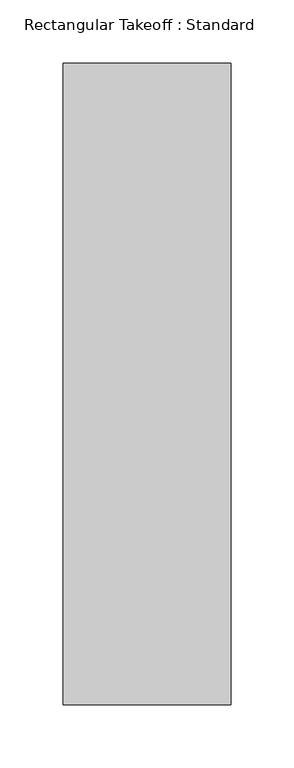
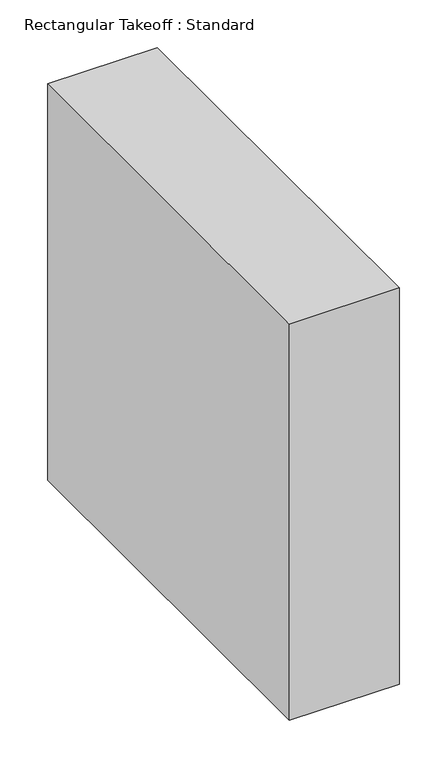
"""IFC4 building model written with IfcOpenShell, lengths in millimetres: duct fitting geometry, Rectangular Takeoff : Standard."""

from ifc_helpers import new_model, si_unit, frame, origin, place, context, project, spatial, polyline, outline, extrude, source, transform, mapped, element, save


def rectangular_takeoff_standard_8aed40d7(model_context):
    return source(origin(), model_context, "Body", "SweptSolid", [
        extrude(outline(polyline([(-6.096, 254.0), (127.0, 254.0), (127.0, -254.0), (-6.096, -254.0), (-6.096, 254.0)])), frame((0.0, 0.0, -254.0), z_axis=(0.0, 0.0, 1.0), x_axis=(1.0, 0.0, 0.0)), (0.0, 0.0, 1.0), 508.0),
    ])


if __name__ == "__main__":
    model = new_model("IFC4")
    model_context = context("Model", 3, world=origin())
    ifc_project = project(units=[si_unit("LENGTHUNIT", "METRE", prefix="MILLI")], contexts=[model_context])
    site = spatial("IfcSite", under=ifc_project)
    building = spatial("IfcBuilding", under=site)
    placement = place(None, origin())
    rectangular_takeoff_standard_shape = rectangular_takeoff_standard_8aed40d7(model_context)
    element("IfcDuctFitting", 1, ObjectType="Rectangular Takeoff : Standard", at=placement, inside=building, context=model_context, shape_type="MappedRepresentation", body=[
        mapped(rectangular_takeoff_standard_shape, transform((0.0, 0.0, 0.0), x_axis=(1.0, 0.0, 0.0), y_axis=(0.0, 1.0, 0.0), z_axis=(0.0, 0.0, 1.0))),
    ])
    save(model, "model.ifc")
